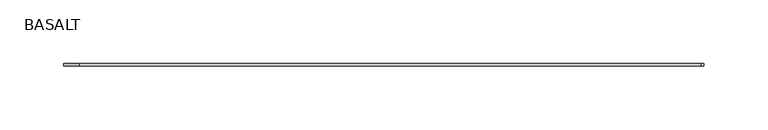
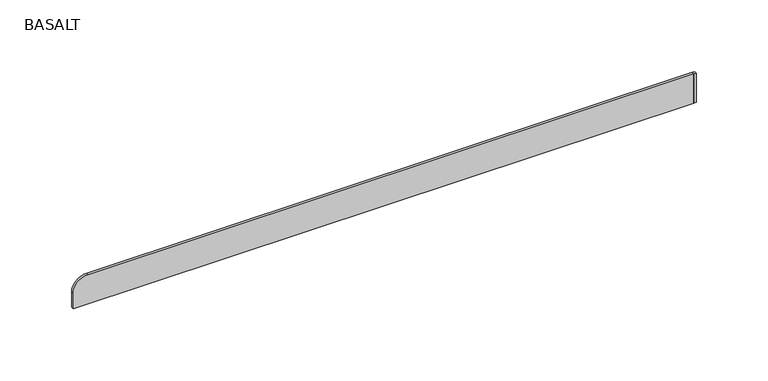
"""IFC4 building model written with IfcOpenShell, lengths in millimetres: proxy geometry, BORDA BLOCKLINE STEP BASALT 50X50 EXT BOLD : BASALT."""

from ifc_helpers import new_model, si_unit, point, frame, frame_2d, origin, place, context, project, spatial, polyline, circle_curve, trimmed, segment, composite_curve, outline, extrude, source, transform, mapped, element, save


def basalt_00bb0c9c(model_context):
    return source(origin(), model_context, "Body", "SweptSolid", [
        extrude(outline(polyline([(258.0000153, 251.0), (260.0000153, 251.0), (260.0000153, 249.0), (258.0000153, 249.0), (258.0000153, 251.0)])), frame((0.0, 0.0, -25.0), z_axis=(0.0, 0.0, 1.0), x_axis=(1.0, 0.0, 0.0)), (0.0, 0.0, 1.0), 25.0),
        extrude(outline(composite_curve([segment(polyline([(-24.9999835, -242.0), (-25.0, 258.0000153), (0.0, 258.0000153), (0.0, -230.0)]), True, "CONTINUOUS"), segment(trimmed(circle_curve(frame_2d((-12.0, -230.0)), 12.0), [point((0.0, -230.0))], [point((-12.0, -242.0))], False, "CARTESIAN"), True, "CONTINUOUS"), segment(polyline([(-12.0, -242.0), (-24.9999835, -242.0)]), True, "CONTINUOUS")], self_intersect=False)), frame((0.0, 249.0, 0.0), z_axis=(0.0, 1.0, 0.0), x_axis=(0.0, 0.0, 1.0)), (0.0, 0.0, 1.0), 2.0),
    ])


if __name__ == "__main__":
    model = new_model("IFC4")
    model_context = context("Model", 3, world=origin())
    ifc_project = project(units=[si_unit("LENGTHUNIT", "METRE", prefix="MILLI")], contexts=[model_context])
    site = spatial("IfcSite", under=ifc_project)
    building = spatial("IfcBuilding", under=site)
    placement = place(None, origin())
    basalt_shape = basalt_00bb0c9c(model_context)
    element("IfcBuildingElementProxy", 1, Name="BORDA BLOCKLINE STEP BASALT 50X50 EXT BOLD : BASALT", ObjectType="BORDA BLOCKLINE STEP BASALT 50X50 EXT BOLD : BASALT", at=placement, inside=building, context=model_context, shape_type="MappedRepresentation", body=[
        mapped(basalt_shape, transform((0.0, 0.0, 0.0), x_axis=(1.0, 0.0, 0.0), y_axis=(0.0, 1.0, 0.0), z_axis=(0.0, 0.0, 1.0))),
    ])
    save(model, "model.ifc")
